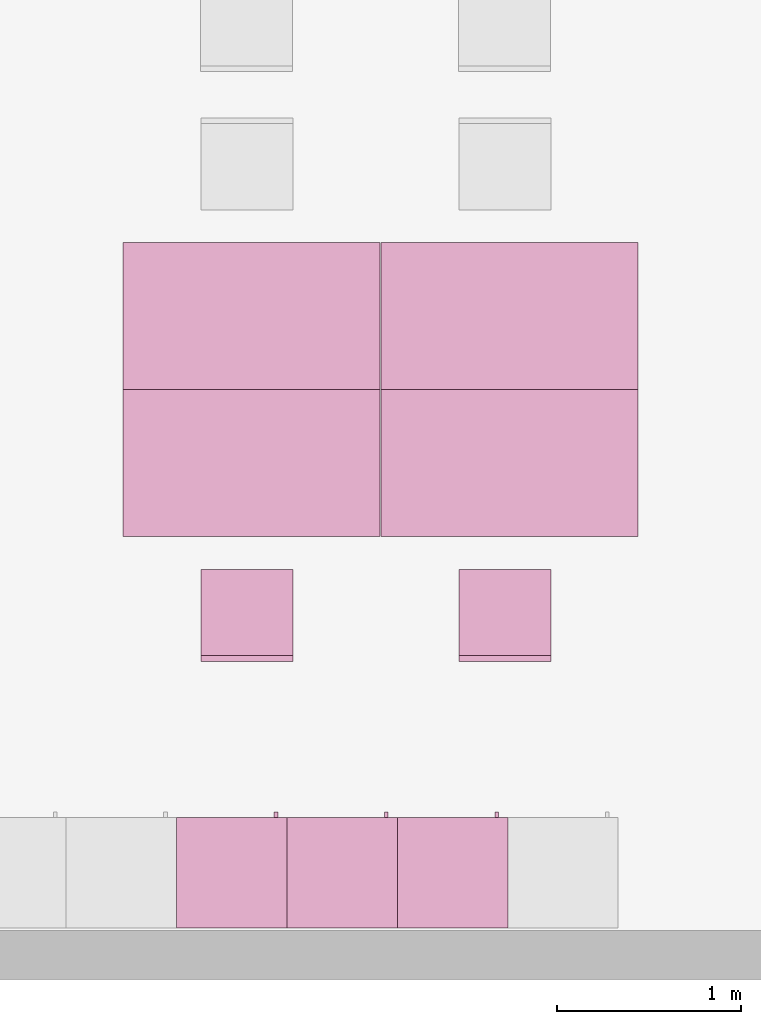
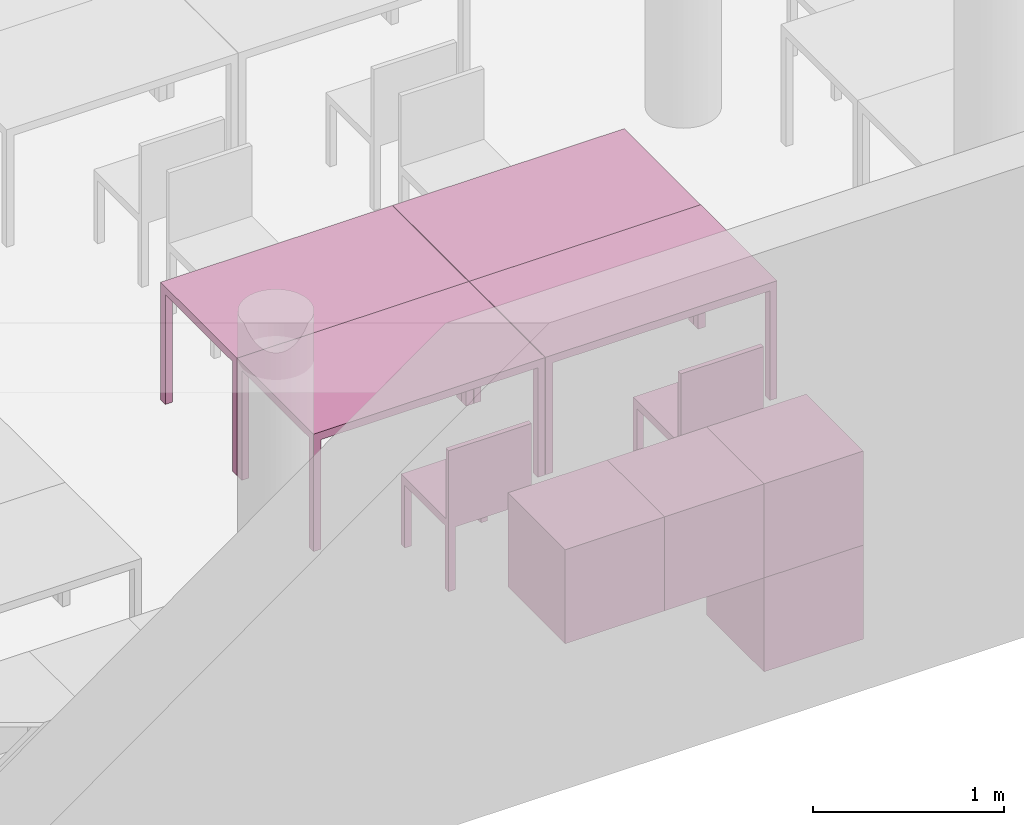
"""IFC4 building model written with IfcOpenShell, lengths in metres."""

from ifc_helpers import new_model, entity, si_unit, converted_unit, derived_unit, frame, origin, place, context, subcontext, project, spatial, faceted_brep, element, save


model = new_model("IFC4")

# Units and contexts
model_context = context("Model", 3, precision=1e-05, world=origin())
body_context = subcontext(model_context, "Body", "Model", "MODEL_VIEW")
ifc_project = project(units=[si_unit("LENGTHUNIT", "METRE"), si_unit("AREAUNIT", "SQUARE_METRE"), si_unit("VOLUMEUNIT", "CUBIC_METRE"), si_unit("MASSUNIT", "GRAM", prefix="KILO"), converted_unit("PLANEANGLEUNIT", "DEGREE", entity("IfcPlaneAngleMeasure", 0.0174532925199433), si_unit("PLANEANGLEUNIT", "RADIAN"), dimensions=[0, 0, 0, 0, 0, 0, 0]), derived_unit("THERMALTRANSMITTANCEUNIT", [(si_unit("POWERUNIT", "WATT"), 1), (si_unit("THERMODYNAMICTEMPERATUREUNIT", "KELVIN"), -1), (si_unit("LENGTHUNIT", "METRE"), -2)]), derived_unit("VOLUMETRICFLOWRATEUNIT", [(si_unit("LENGTHUNIT", "METRE"), 3), (converted_unit("TIMEUNIT", "hour", entity("IfcTimeMeasure", 3600.0), si_unit("TIMEUNIT", "SECOND"), dimensions=[0, 0, 1, 0, 0, 0, 0]), -1), (si_unit("LENGTHUNIT", "METRE"), -1)])], contexts=[model_context])

# Building, storeys
building_placement = place(None, origin())
building = spatial("IfcBuilding", under=ifc_project, at=building_placement, Name="HABITATGE PLURIFAMILIAR", CompositionType="ELEMENT")
storey_1_placement = place(building_placement, frame((0.0, 0.0, 18.29)))
storey_1 = spatial("IfcBuildingStorey", under=building, at=storey_1_placement, Name="PLANTA CINQUENA", CompositionType="ELEMENT", Elevation=18.29)
storey_2_placement = place(storey_1_placement, frame((0.0, 0.0, 15.28)))
storey_2 = spatial("IfcBuildingStorey", under=storey_1, at=storey_2_placement, Name="NOU", CompositionType="PARTIAL")

# Furniture
furniture_1_placement = place(storey_2_placement, frame((418.689089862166, 16.0495289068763, -15.28)))
element("IfcFurniture", 1, at=furniture_1_placement, inside=storey_2, Name="Taula 140X80_P5", context=body_context, shape_type="Brep", body=[
    faceted_brep([(0.04375, 0.05, 0.0), (0.0, 0.05, 0.0), (0.0, 0.0, 0.0), (0.04375, 0.0, 0.0), (0.04375, 0.0, 0.7), (0.0, 0.0, 0.7), (0.0, 0.05, 0.7), (0.04375, 0.05, 0.7)], [[[0, 1, 2, 3]], [[4, 5, 6, 7]], [[3, 4, 7, 0]], [[2, 5, 4, 3]], [[1, 6, 5, 2]], [[0, 7, 6, 1]]], orient=[[False], [False], [False], [False], [False], [False]]),
    faceted_brep([(0.04375, 0.800069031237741, 0.0), (0.0, 0.800069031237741, 0.0), (0.0, 0.750069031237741, 0.0), (0.04375, 0.750069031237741, 0.0), (0.04375, 0.750069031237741, 0.7), (0.0, 0.750069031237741, 0.7), (0.0, 0.800069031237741, 0.7), (0.04375, 0.800069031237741, 0.7)], [[[0, 1, 2, 3]], [[4, 5, 6, 7]], [[3, 4, 7, 0]], [[2, 5, 4, 3]], [[1, 6, 5, 2]], [[0, 7, 6, 1]]], orient=[[False], [False], [False], [False], [False], [False]]),
    faceted_brep([(1.39732768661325, 0.800069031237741, 0.7), (0.0, 0.800069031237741, 0.7), (0.0, 0.0, 0.7), (1.39732768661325, 0.0, 0.7), (1.39732768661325, 0.0, 0.75), (0.0, 0.0, 0.75), (0.0, 0.800069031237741, 0.75), (1.39732768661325, 0.800069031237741, 0.75)], [[[0, 1, 2, 3]], [[4, 5, 6, 7]], [[3, 4, 7, 0]], [[2, 5, 4, 3]], [[1, 6, 5, 2]], [[0, 7, 6, 1]]], orient=[[False], [False], [False], [False], [False], [False]]),
    faceted_brep([(1.39732768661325, 0.05, 0.0), (1.35357768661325, 0.05, 0.0), (1.35357768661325, 0.0, 0.0), (1.39732768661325, 0.0, 0.0), (1.39732768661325, 0.0, 0.7), (1.35357768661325, 0.0, 0.7), (1.35357768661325, 0.05, 0.7), (1.39732768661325, 0.05, 0.7)], [[[0, 1, 2, 3]], [[4, 5, 6, 7]], [[3, 4, 7, 0]], [[2, 5, 4, 3]], [[1, 6, 5, 2]], [[0, 7, 6, 1]]], orient=[[False], [False], [False], [False], [False], [False]]),
    faceted_brep([(1.39732768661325, 0.800069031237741, 0.0), (1.35357768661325, 0.800069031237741, 0.0), (1.35357768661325, 0.750069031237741, 0.0), (1.39732768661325, 0.750069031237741, 0.0), (1.39732768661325, 0.750069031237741, 0.7), (1.35357768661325, 0.750069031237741, 0.7), (1.35357768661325, 0.800069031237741, 0.7), (1.39732768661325, 0.800069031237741, 0.7)], [[[0, 1, 2, 3]], [[4, 5, 6, 7]], [[3, 4, 7, 0]], [[2, 5, 4, 3]], [[1, 6, 5, 2]], [[0, 7, 6, 1]]], orient=[[False], [False], [False], [False], [False], [False]]),
])
furniture_2_placement = place(storey_2_placement, frame((417.287910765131, 16.0495289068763, -15.28)))
element("IfcFurniture", 2, at=furniture_2_placement, inside=storey_2, Name="Taula 140X80_P5", context=body_context, shape_type="Brep", body=[
    faceted_brep([(0.04375, 0.05, 0.0), (0.0, 0.05, 0.0), (0.0, 0.0, 0.0), (0.04375, 0.0, 0.0), (0.04375, 0.0, 0.7), (0.0, 0.0, 0.7), (0.0, 0.05, 0.7), (0.04375, 0.05, 0.7)], [[[0, 1, 2, 3]], [[4, 5, 6, 7]], [[3, 4, 7, 0]], [[2, 5, 4, 3]], [[1, 6, 5, 2]], [[0, 7, 6, 1]]], orient=[[False], [False], [False], [False], [False], [False]]),
    faceted_brep([(0.04375, 0.800069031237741, 0.0), (0.0, 0.800069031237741, 0.0), (0.0, 0.750069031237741, 0.0), (0.04375, 0.750069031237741, 0.0), (0.04375, 0.750069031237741, 0.7), (0.0, 0.750069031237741, 0.7), (0.0, 0.800069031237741, 0.7), (0.04375, 0.800069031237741, 0.7)], [[[0, 1, 2, 3]], [[4, 5, 6, 7]], [[3, 4, 7, 0]], [[2, 5, 4, 3]], [[1, 6, 5, 2]], [[0, 7, 6, 1]]], orient=[[False], [False], [False], [False], [False], [False]]),
    faceted_brep([(1.39732768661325, 0.800069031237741, 0.7), (0.0, 0.800069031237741, 0.7), (0.0, 0.0, 0.7), (1.39732768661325, 0.0, 0.7), (1.39732768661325, 0.0, 0.75), (0.0, 0.0, 0.75), (0.0, 0.800069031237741, 0.75), (1.39732768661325, 0.800069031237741, 0.75)], [[[0, 1, 2, 3]], [[4, 5, 6, 7]], [[3, 4, 7, 0]], [[2, 5, 4, 3]], [[1, 6, 5, 2]], [[0, 7, 6, 1]]], orient=[[False], [False], [False], [False], [False], [False]]),
    faceted_brep([(1.39732768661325, 0.05, 0.0), (1.35357768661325, 0.05, 0.0), (1.35357768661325, 0.0, 0.0), (1.39732768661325, 0.0, 0.0), (1.39732768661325, 0.0, 0.7), (1.35357768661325, 0.0, 0.7), (1.35357768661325, 0.05, 0.7), (1.39732768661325, 0.05, 0.7)], [[[0, 1, 2, 3]], [[4, 5, 6, 7]], [[3, 4, 7, 0]], [[2, 5, 4, 3]], [[1, 6, 5, 2]], [[0, 7, 6, 1]]], orient=[[False], [False], [False], [False], [False], [False]]),
    faceted_brep([(1.39732768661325, 0.800069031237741, 0.0), (1.35357768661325, 0.800069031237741, 0.0), (1.35357768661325, 0.750069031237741, 0.0), (1.39732768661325, 0.750069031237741, 0.0), (1.39732768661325, 0.750069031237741, 0.7), (1.35357768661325, 0.750069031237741, 0.7), (1.35357768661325, 0.800069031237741, 0.7), (1.39732768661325, 0.800069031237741, 0.7)], [[[0, 1, 2, 3]], [[4, 5, 6, 7]], [[3, 4, 7, 0]], [[2, 5, 4, 3]], [[1, 6, 5, 2]], [[0, 7, 6, 1]]], orient=[[False], [False], [False], [False], [False], [False]]),
])
furniture_3_placement = place(storey_2_placement, frame((418.689089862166, 15.2494598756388, -15.28)))
element("IfcFurniture", 3, at=furniture_3_placement, inside=storey_2, Name="Taula 140X80_P5", context=body_context, shape_type="Brep", body=[
    faceted_brep([(0.04375, 0.750069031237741, 0.0), (0.04375, 0.800069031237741, 0.0), (0.0, 0.800069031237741, 0.0), (0.0, 0.750069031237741, 0.0), (0.04375, 0.800069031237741, 0.7), (0.04375, 0.750069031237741, 0.7), (0.0, 0.750069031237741, 0.7), (0.0, 0.800069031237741, 0.7)], [[[0, 1, 2, 3]], [[4, 5, 6, 7]], [[1, 0, 5, 4]], [[2, 1, 4, 7]], [[3, 2, 7, 6]], [[0, 3, 6, 5]]], orient=[[False], [False], [False], [False], [False], [False]]),
    faceted_brep([(0.04375, 0.0, 0.0), (0.04375, 0.05, 0.0), (0.0, 0.05, 0.0), (0.0, 0.0, 0.0), (0.04375, 0.05, 0.7), (0.04375, 0.0, 0.7), (0.0, 0.0, 0.7), (0.0, 0.05, 0.7)], [[[0, 1, 2, 3]], [[4, 5, 6, 7]], [[1, 0, 5, 4]], [[2, 1, 4, 7]], [[3, 2, 7, 6]], [[0, 3, 6, 5]]], orient=[[False], [False], [False], [False], [False], [False]]),
    faceted_brep([(1.39732768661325, 0.0, 0.7), (1.39732768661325, 0.800069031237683, 0.7), (0.0, 0.800069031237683, 0.7), (0.0, 0.0, 0.7), (1.39732768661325, 0.800069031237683, 0.75), (1.39732768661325, 0.0, 0.75), (0.0, 0.0, 0.75), (0.0, 0.800069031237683, 0.75)], [[[0, 1, 2, 3]], [[4, 5, 6, 7]], [[1, 0, 5, 4]], [[2, 1, 4, 7]], [[3, 2, 7, 6]], [[0, 3, 6, 5]]], orient=[[False], [False], [False], [False], [False], [False]]),
    faceted_brep([(1.39732768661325, 0.750069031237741, 0.0), (1.39732768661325, 0.800069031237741, 0.0), (1.35357768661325, 0.800069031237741, 0.0), (1.35357768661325, 0.750069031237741, 0.0), (1.39732768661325, 0.800069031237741, 0.7), (1.39732768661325, 0.750069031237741, 0.7), (1.35357768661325, 0.750069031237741, 0.7), (1.35357768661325, 0.800069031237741, 0.7)], [[[0, 1, 2, 3]], [[4, 5, 6, 7]], [[1, 0, 5, 4]], [[2, 1, 4, 7]], [[3, 2, 7, 6]], [[0, 3, 6, 5]]], orient=[[False], [False], [False], [False], [False], [False]]),
    faceted_brep([(1.39732768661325, 0.0, 0.0), (1.39732768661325, 0.05, 0.0), (1.35357768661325, 0.05, 0.0), (1.35357768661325, 0.0, 0.0), (1.39732768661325, 0.05, 0.7), (1.39732768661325, 0.0, 0.7), (1.35357768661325, 0.0, 0.7), (1.35357768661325, 0.05, 0.7)], [[[0, 1, 2, 3]], [[4, 5, 6, 7]], [[1, 0, 5, 4]], [[2, 1, 4, 7]], [[3, 2, 7, 6]], [[0, 3, 6, 5]]], orient=[[False], [False], [False], [False], [False], [False]]),
])
furniture_4_placement = place(storey_2_placement, frame((417.287910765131, 15.2494598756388, -15.28)))
element("IfcFurniture", 4, at=furniture_4_placement, inside=storey_2, Name="Taula 140X80_P5", context=body_context, shape_type="Brep", body=[
    faceted_brep([(0.04375, 0.750069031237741, 0.0), (0.04375, 0.800069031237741, 0.0), (0.0, 0.800069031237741, 0.0), (0.0, 0.750069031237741, 0.0), (0.04375, 0.800069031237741, 0.7), (0.04375, 0.750069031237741, 0.7), (0.0, 0.750069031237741, 0.7), (0.0, 0.800069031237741, 0.7)], [[[0, 1, 2, 3]], [[4, 5, 6, 7]], [[1, 0, 5, 4]], [[2, 1, 4, 7]], [[3, 2, 7, 6]], [[0, 3, 6, 5]]], orient=[[False], [False], [False], [False], [False], [False]]),
    faceted_brep([(0.04375, 0.0, 0.0), (0.04375, 0.05, 0.0), (0.0, 0.05, 0.0), (0.0, 0.0, 0.0), (0.04375, 0.05, 0.7), (0.04375, 0.0, 0.7), (0.0, 0.0, 0.7), (0.0, 0.05, 0.7)], [[[0, 1, 2, 3]], [[4, 5, 6, 7]], [[1, 0, 5, 4]], [[2, 1, 4, 7]], [[3, 2, 7, 6]], [[0, 3, 6, 5]]], orient=[[False], [False], [False], [False], [False], [False]]),
    faceted_brep([(1.39732768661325, 0.0, 0.7), (1.39732768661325, 0.800069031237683, 0.7), (0.0, 0.800069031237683, 0.7), (0.0, 0.0, 0.7), (1.39732768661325, 0.800069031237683, 0.75), (1.39732768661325, 0.0, 0.75), (0.0, 0.0, 0.75), (0.0, 0.800069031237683, 0.75)], [[[0, 1, 2, 3]], [[4, 5, 6, 7]], [[1, 0, 5, 4]], [[2, 1, 4, 7]], [[3, 2, 7, 6]], [[0, 3, 6, 5]]], orient=[[False], [False], [False], [False], [False], [False]]),
    faceted_brep([(1.39732768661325, 0.750069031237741, 0.0), (1.39732768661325, 0.800069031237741, 0.0), (1.35357768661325, 0.800069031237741, 0.0), (1.35357768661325, 0.750069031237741, 0.0), (1.39732768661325, 0.800069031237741, 0.7), (1.39732768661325, 0.750069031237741, 0.7), (1.35357768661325, 0.750069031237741, 0.7), (1.35357768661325, 0.800069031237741, 0.7)], [[[0, 1, 2, 3]], [[4, 5, 6, 7]], [[1, 0, 5, 4]], [[2, 1, 4, 7]], [[3, 2, 7, 6]], [[0, 3, 6, 5]]], orient=[[False], [False], [False], [False], [False], [False]]),
    faceted_brep([(1.39732768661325, 0.0, 0.0), (1.39732768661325, 0.05, 0.0), (1.35357768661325, 0.05, 0.0), (1.35357768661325, 0.0, 0.0), (1.39732768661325, 0.05, 0.7), (1.39732768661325, 0.0, 0.7), (1.35357768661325, 0.0, 0.7), (1.35357768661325, 0.05, 0.7)], [[[0, 1, 2, 3]], [[4, 5, 6, 7]], [[1, 0, 5, 4]], [[2, 1, 4, 7]], [[3, 2, 7, 6]], [[0, 3, 6, 5]]], orient=[[False], [False], [False], [False], [False], [False]]),
])
furniture_5_placement = place(storey_2_placement, frame((418.779266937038, 13.1230771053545, -15.2800000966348)))
element("IfcFurniture", 5, at=furniture_5_placement, inside=storey_2, Name="Armai 60x60x60_P5", context=body_context, shape_type="Brep", body=[
    faceted_brep([(0.600000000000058, 0.6, 0.02), (0.0, 0.6, 0.02), (0.0, 0.6, 0.0), (0.600000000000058, 0.6, 0.0), (0.0, 0.0, 0.02), (0.0, 0.0, 0.0), (0.600000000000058, 0.0, 0.02), (0.600000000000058, 0.0, 0.0)], [[[0, 1, 2, 3]], [[1, 4, 5, 2]], [[4, 6, 7, 5]], [[6, 0, 3, 7]], [[0, 6, 4, 1]], [[3, 2, 5, 7]]], orient=[[False], [False], [False], [False], [False], [False]]),
    faceted_brep([(0.02, 0.0, 0.58), (0.02, 0.0, 0.02), (0.02, 0.0200000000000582, 0.02), (0.02, 0.0200000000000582, 0.58), (0.58, 0.0, 0.02), (0.58, 0.0200000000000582, 0.02), (0.58, 0.0, 0.58), (0.58, 0.0200000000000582, 0.58)], [[[0, 1, 2, 3]], [[1, 4, 5, 2]], [[4, 6, 7, 5]], [[6, 0, 3, 7]], [[0, 6, 4, 1]], [[3, 2, 5, 7]]], orient=[[False], [False], [False], [False], [False], [False]]),
    faceted_brep([(0.58, 0.6, 0.58), (0.58, 0.6, 0.02), (0.6, 0.6, 0.02), (0.6, 0.6, 0.58), (0.58, 0.0, 0.02), (0.6, 0.0, 0.02), (0.58, 0.0, 0.58), (0.6, 0.0, 0.58)], [[[0, 1, 2, 3]], [[1, 4, 5, 2]], [[4, 6, 7, 5]], [[6, 0, 3, 7]], [[0, 6, 4, 1]], [[3, 2, 5, 7]]], orient=[[False], [False], [False], [False], [False], [False]]),
    faceted_brep([(0.600000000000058, 0.58, 0.58), (0.600000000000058, 0.58, 0.02), (0.600000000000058, 0.6, 0.02), (0.600000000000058, 0.6, 0.58), (0.580000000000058, 0.58, 0.02), (0.580000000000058, 0.6, 0.02), (0.580000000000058, 0.58, 0.58), (0.580000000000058, 0.6, 0.58)], [[[0, 1, 2, 3]], [[1, 4, 5, 2]], [[4, 6, 7, 5]], [[6, 0, 3, 7]], [[0, 6, 4, 1]], [[3, 2, 5, 7]]], orient=[[False], [False], [False], [False], [False], [False]]),
    faceted_brep([(0.0, 0.6, 0.58), (0.0, 0.6, 0.02), (0.0200000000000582, 0.6, 0.02), (0.0200000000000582, 0.6, 0.58), (0.0, 0.0, 0.02), (0.0200000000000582, 0.0, 0.02), (0.0, 0.0, 0.58), (0.0200000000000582, 0.0, 0.58)], [[[0, 1, 2, 3]], [[1, 4, 5, 2]], [[4, 6, 7, 5]], [[6, 0, 3, 7]], [[0, 6, 4, 1]], [[3, 2, 5, 7]]], orient=[[False], [False], [False], [False], [False], [False]]),
    faceted_brep([(0.6, 0.600000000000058, 0.6), (0.0, 0.600000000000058, 0.6), (0.0, 0.600000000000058, 0.58), (0.6, 0.600000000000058, 0.58), (0.0, 0.0, 0.6), (0.0, 0.0, 0.58), (0.6, 0.0, 0.6), (0.6, 0.0, 0.58)], [[[0, 1, 2, 3]], [[1, 4, 5, 2]], [[4, 6, 7, 5]], [[6, 0, 3, 7]], [[0, 6, 4, 1]], [[3, 2, 5, 7]]], orient=[[False], [False], [False], [False], [False], [False]]),
    faceted_brep([(0.02, 0.580000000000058, 0.58), (0.02, 0.580000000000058, 0.02), (0.02, 0.600000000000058, 0.02), (0.02, 0.600000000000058, 0.58), (0.580000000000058, 0.580000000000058, 0.02), (0.580000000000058, 0.600000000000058, 0.02), (0.580000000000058, 0.580000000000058, 0.58), (0.580000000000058, 0.600000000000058, 0.58)], [[[0, 1, 2, 3]], [[1, 4, 5, 2]], [[4, 6, 7, 5]], [[6, 0, 3, 7]], [[0, 6, 4, 1]], [[3, 2, 5, 7]]], orient=[[False], [False], [False], [False], [False], [False]]),
    faceted_brep([(0.53, 0.600000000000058, 0.358064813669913), (0.53, 0.600000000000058, 0.258064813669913), (0.53, 0.630000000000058, 0.258064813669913), (0.53, 0.630000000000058, 0.358064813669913), (0.55, 0.600000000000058, 0.258064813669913), (0.55, 0.630000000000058, 0.258064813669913), (0.55, 0.600000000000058, 0.358064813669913), (0.55, 0.630000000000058, 0.358064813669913)], [[[0, 1, 2, 3]], [[1, 4, 5, 2]], [[4, 6, 7, 5]], [[6, 0, 3, 7]], [[0, 6, 4, 1]], [[3, 2, 5, 7]]], orient=[[False], [False], [False], [False], [False], [False]]),
])
furniture_6_placement = place(storey_2_placement, frame((417.579266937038, 13.1230771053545, -14.6800000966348)))
element("IfcFurniture", 6, at=furniture_6_placement, inside=storey_2, Name="Armai 60x60x60_P5", context=body_context, shape_type="Brep", body=[
    faceted_brep([(0.600000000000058, 0.6, 0.02), (0.0, 0.6, 0.02), (0.0, 0.6, 0.0), (0.600000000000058, 0.6, 0.0), (0.0, 0.0, 0.02), (0.0, 0.0, 0.0), (0.600000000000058, 0.0, 0.02), (0.600000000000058, 0.0, 0.0)], [[[0, 1, 2, 3]], [[1, 4, 5, 2]], [[4, 6, 7, 5]], [[6, 0, 3, 7]], [[0, 6, 4, 1]], [[3, 2, 5, 7]]], orient=[[False], [False], [False], [False], [False], [False]]),
    faceted_brep([(0.02, 0.0, 0.58), (0.02, 0.0, 0.02), (0.02, 0.0200000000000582, 0.02), (0.02, 0.0200000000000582, 0.58), (0.58, 0.0, 0.02), (0.58, 0.0200000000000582, 0.02), (0.58, 0.0, 0.58), (0.58, 0.0200000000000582, 0.58)], [[[0, 1, 2, 3]], [[1, 4, 5, 2]], [[4, 6, 7, 5]], [[6, 0, 3, 7]], [[0, 6, 4, 1]], [[3, 2, 5, 7]]], orient=[[False], [False], [False], [False], [False], [False]]),
    faceted_brep([(0.58, 0.6, 0.58), (0.58, 0.6, 0.02), (0.6, 0.6, 0.02), (0.6, 0.6, 0.58), (0.58, 0.0, 0.02), (0.6, 0.0, 0.02), (0.58, 0.0, 0.58), (0.6, 0.0, 0.58)], [[[0, 1, 2, 3]], [[1, 4, 5, 2]], [[4, 6, 7, 5]], [[6, 0, 3, 7]], [[0, 6, 4, 1]], [[3, 2, 5, 7]]], orient=[[False], [False], [False], [False], [False], [False]]),
    faceted_brep([(0.600000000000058, 0.58, 0.58), (0.600000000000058, 0.58, 0.02), (0.600000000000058, 0.6, 0.02), (0.600000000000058, 0.6, 0.58), (0.580000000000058, 0.58, 0.02), (0.580000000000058, 0.6, 0.02), (0.580000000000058, 0.58, 0.58), (0.580000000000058, 0.6, 0.58)], [[[0, 1, 2, 3]], [[1, 4, 5, 2]], [[4, 6, 7, 5]], [[6, 0, 3, 7]], [[0, 6, 4, 1]], [[3, 2, 5, 7]]], orient=[[False], [False], [False], [False], [False], [False]]),
    faceted_brep([(0.0, 0.6, 0.58), (0.0, 0.6, 0.02), (0.0200000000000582, 0.6, 0.02), (0.0200000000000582, 0.6, 0.58), (0.0, 0.0, 0.02), (0.0200000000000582, 0.0, 0.02), (0.0, 0.0, 0.58), (0.0200000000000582, 0.0, 0.58)], [[[0, 1, 2, 3]], [[1, 4, 5, 2]], [[4, 6, 7, 5]], [[6, 0, 3, 7]], [[0, 6, 4, 1]], [[3, 2, 5, 7]]], orient=[[False], [False], [False], [False], [False], [False]]),
    faceted_brep([(0.6, 0.600000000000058, 0.6), (0.0, 0.600000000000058, 0.6), (0.0, 0.600000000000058, 0.58), (0.6, 0.600000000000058, 0.58), (0.0, 0.0, 0.6), (0.0, 0.0, 0.58), (0.6, 0.0, 0.6), (0.6, 0.0, 0.58)], [[[0, 1, 2, 3]], [[1, 4, 5, 2]], [[4, 6, 7, 5]], [[6, 0, 3, 7]], [[0, 6, 4, 1]], [[3, 2, 5, 7]]], orient=[[False], [False], [False], [False], [False], [False]]),
    faceted_brep([(0.02, 0.580000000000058, 0.58), (0.02, 0.580000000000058, 0.02), (0.02, 0.600000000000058, 0.02), (0.02, 0.600000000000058, 0.58), (0.580000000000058, 0.580000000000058, 0.02), (0.580000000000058, 0.600000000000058, 0.02), (0.580000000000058, 0.580000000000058, 0.58), (0.580000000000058, 0.600000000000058, 0.58)], [[[0, 1, 2, 3]], [[1, 4, 5, 2]], [[4, 6, 7, 5]], [[6, 0, 3, 7]], [[0, 6, 4, 1]], [[3, 2, 5, 7]]], orient=[[False], [False], [False], [False], [False], [False]]),
    faceted_brep([(0.53, 0.600000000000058, 0.358064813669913), (0.53, 0.600000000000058, 0.258064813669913), (0.53, 0.630000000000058, 0.258064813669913), (0.53, 0.630000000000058, 0.358064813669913), (0.55, 0.600000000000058, 0.258064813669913), (0.55, 0.630000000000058, 0.258064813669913), (0.55, 0.600000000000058, 0.358064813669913), (0.55, 0.630000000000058, 0.358064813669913)], [[[0, 1, 2, 3]], [[1, 4, 5, 2]], [[4, 6, 7, 5]], [[6, 0, 3, 7]], [[0, 6, 4, 1]], [[3, 2, 5, 7]]], orient=[[False], [False], [False], [False], [False], [False]]),
])
furniture_7_placement = place(storey_2_placement, frame((418.779266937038, 13.1230771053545, -14.6800000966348)))
element("IfcFurniture", 7, at=furniture_7_placement, inside=storey_2, Name="Armai 60x60x60_P5", context=body_context, shape_type="Brep", body=[
    faceted_brep([(0.600000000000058, 0.6, 0.02), (0.0, 0.6, 0.02), (0.0, 0.6, 0.0), (0.600000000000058, 0.6, 0.0), (0.0, 0.0, 0.02), (0.0, 0.0, 0.0), (0.600000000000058, 0.0, 0.02), (0.600000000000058, 0.0, 0.0)], [[[0, 1, 2, 3]], [[1, 4, 5, 2]], [[4, 6, 7, 5]], [[6, 0, 3, 7]], [[0, 6, 4, 1]], [[3, 2, 5, 7]]], orient=[[False], [False], [False], [False], [False], [False]]),
    faceted_brep([(0.02, 0.0, 0.58), (0.02, 0.0, 0.02), (0.02, 0.0200000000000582, 0.02), (0.02, 0.0200000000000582, 0.58), (0.58, 0.0, 0.02), (0.58, 0.0200000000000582, 0.02), (0.58, 0.0, 0.58), (0.58, 0.0200000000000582, 0.58)], [[[0, 1, 2, 3]], [[1, 4, 5, 2]], [[4, 6, 7, 5]], [[6, 0, 3, 7]], [[0, 6, 4, 1]], [[3, 2, 5, 7]]], orient=[[False], [False], [False], [False], [False], [False]]),
    faceted_brep([(0.58, 0.6, 0.58), (0.58, 0.6, 0.02), (0.6, 0.6, 0.02), (0.6, 0.6, 0.58), (0.58, 0.0, 0.02), (0.6, 0.0, 0.02), (0.58, 0.0, 0.58), (0.6, 0.0, 0.58)], [[[0, 1, 2, 3]], [[1, 4, 5, 2]], [[4, 6, 7, 5]], [[6, 0, 3, 7]], [[0, 6, 4, 1]], [[3, 2, 5, 7]]], orient=[[False], [False], [False], [False], [False], [False]]),
    faceted_brep([(0.600000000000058, 0.58, 0.58), (0.600000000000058, 0.58, 0.02), (0.600000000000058, 0.6, 0.02), (0.600000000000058, 0.6, 0.58), (0.580000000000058, 0.58, 0.02), (0.580000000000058, 0.6, 0.02), (0.580000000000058, 0.58, 0.58), (0.580000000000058, 0.6, 0.58)], [[[0, 1, 2, 3]], [[1, 4, 5, 2]], [[4, 6, 7, 5]], [[6, 0, 3, 7]], [[0, 6, 4, 1]], [[3, 2, 5, 7]]], orient=[[False], [False], [False], [False], [False], [False]]),
    faceted_brep([(0.0, 0.6, 0.58), (0.0, 0.6, 0.02), (0.0200000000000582, 0.6, 0.02), (0.0200000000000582, 0.6, 0.58), (0.0, 0.0, 0.02), (0.0200000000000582, 0.0, 0.02), (0.0, 0.0, 0.58), (0.0200000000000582, 0.0, 0.58)], [[[0, 1, 2, 3]], [[1, 4, 5, 2]], [[4, 6, 7, 5]], [[6, 0, 3, 7]], [[0, 6, 4, 1]], [[3, 2, 5, 7]]], orient=[[False], [False], [False], [False], [False], [False]]),
    faceted_brep([(0.6, 0.600000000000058, 0.6), (0.0, 0.600000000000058, 0.6), (0.0, 0.600000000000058, 0.58), (0.6, 0.600000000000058, 0.58), (0.0, 0.0, 0.6), (0.0, 0.0, 0.58), (0.6, 0.0, 0.6), (0.6, 0.0, 0.58)], [[[0, 1, 2, 3]], [[1, 4, 5, 2]], [[4, 6, 7, 5]], [[6, 0, 3, 7]], [[0, 6, 4, 1]], [[3, 2, 5, 7]]], orient=[[False], [False], [False], [False], [False], [False]]),
    faceted_brep([(0.02, 0.580000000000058, 0.58), (0.02, 0.580000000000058, 0.02), (0.02, 0.600000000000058, 0.02), (0.02, 0.600000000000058, 0.58), (0.580000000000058, 0.580000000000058, 0.02), (0.580000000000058, 0.600000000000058, 0.02), (0.580000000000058, 0.580000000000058, 0.58), (0.580000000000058, 0.600000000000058, 0.58)], [[[0, 1, 2, 3]], [[1, 4, 5, 2]], [[4, 6, 7, 5]], [[6, 0, 3, 7]], [[0, 6, 4, 1]], [[3, 2, 5, 7]]], orient=[[False], [False], [False], [False], [False], [False]]),
    faceted_brep([(0.53, 0.600000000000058, 0.358064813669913), (0.53, 0.600000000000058, 0.258064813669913), (0.53, 0.630000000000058, 0.258064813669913), (0.53, 0.630000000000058, 0.358064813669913), (0.55, 0.600000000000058, 0.258064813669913), (0.55, 0.630000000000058, 0.258064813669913), (0.55, 0.600000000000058, 0.358064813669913), (0.55, 0.630000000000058, 0.358064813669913)], [[[0, 1, 2, 3]], [[1, 4, 5, 2]], [[4, 6, 7, 5]], [[6, 0, 3, 7]], [[0, 6, 4, 1]], [[3, 2, 5, 7]]], orient=[[False], [False], [False], [False], [False], [False]]),
])
furniture_8_placement = place(storey_2_placement, frame((418.179266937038, 13.1230771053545, -14.6800000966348)))
element("IfcFurniture", 8, at=furniture_8_placement, inside=storey_2, Name="Armai 60x60x60_P5", context=body_context, shape_type="Brep", body=[
    faceted_brep([(0.600000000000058, 0.6, 0.02), (0.0, 0.6, 0.02), (0.0, 0.6, 0.0), (0.600000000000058, 0.6, 0.0), (0.0, 0.0, 0.02), (0.0, 0.0, 0.0), (0.600000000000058, 0.0, 0.02), (0.600000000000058, 0.0, 0.0)], [[[0, 1, 2, 3]], [[1, 4, 5, 2]], [[4, 6, 7, 5]], [[6, 0, 3, 7]], [[0, 6, 4, 1]], [[3, 2, 5, 7]]], orient=[[False], [False], [False], [False], [False], [False]]),
    faceted_brep([(0.02, 0.0, 0.58), (0.02, 0.0, 0.02), (0.02, 0.0200000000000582, 0.02), (0.02, 0.0200000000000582, 0.58), (0.58, 0.0, 0.02), (0.58, 0.0200000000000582, 0.02), (0.58, 0.0, 0.58), (0.58, 0.0200000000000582, 0.58)], [[[0, 1, 2, 3]], [[1, 4, 5, 2]], [[4, 6, 7, 5]], [[6, 0, 3, 7]], [[0, 6, 4, 1]], [[3, 2, 5, 7]]], orient=[[False], [False], [False], [False], [False], [False]]),
    faceted_brep([(0.58, 0.6, 0.58), (0.58, 0.6, 0.02), (0.6, 0.6, 0.02), (0.6, 0.6, 0.58), (0.58, 0.0, 0.02), (0.6, 0.0, 0.02), (0.58, 0.0, 0.58), (0.6, 0.0, 0.58)], [[[0, 1, 2, 3]], [[1, 4, 5, 2]], [[4, 6, 7, 5]], [[6, 0, 3, 7]], [[0, 6, 4, 1]], [[3, 2, 5, 7]]], orient=[[False], [False], [False], [False], [False], [False]]),
    faceted_brep([(0.600000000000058, 0.58, 0.58), (0.600000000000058, 0.58, 0.02), (0.600000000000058, 0.6, 0.02), (0.600000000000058, 0.6, 0.58), (0.580000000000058, 0.58, 0.02), (0.580000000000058, 0.6, 0.02), (0.580000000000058, 0.58, 0.58), (0.580000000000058, 0.6, 0.58)], [[[0, 1, 2, 3]], [[1, 4, 5, 2]], [[4, 6, 7, 5]], [[6, 0, 3, 7]], [[0, 6, 4, 1]], [[3, 2, 5, 7]]], orient=[[False], [False], [False], [False], [False], [False]]),
    faceted_brep([(0.0, 0.6, 0.58), (0.0, 0.6, 0.02), (0.0200000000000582, 0.6, 0.02), (0.0200000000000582, 0.6, 0.58), (0.0, 0.0, 0.02), (0.0200000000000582, 0.0, 0.02), (0.0, 0.0, 0.58), (0.0200000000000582, 0.0, 0.58)], [[[0, 1, 2, 3]], [[1, 4, 5, 2]], [[4, 6, 7, 5]], [[6, 0, 3, 7]], [[0, 6, 4, 1]], [[3, 2, 5, 7]]], orient=[[False], [False], [False], [False], [False], [False]]),
    faceted_brep([(0.6, 0.600000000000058, 0.6), (0.0, 0.600000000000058, 0.6), (0.0, 0.600000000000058, 0.58), (0.6, 0.600000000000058, 0.58), (0.0, 0.0, 0.6), (0.0, 0.0, 0.58), (0.6, 0.0, 0.6), (0.6, 0.0, 0.58)], [[[0, 1, 2, 3]], [[1, 4, 5, 2]], [[4, 6, 7, 5]], [[6, 0, 3, 7]], [[0, 6, 4, 1]], [[3, 2, 5, 7]]], orient=[[False], [False], [False], [False], [False], [False]]),
    faceted_brep([(0.02, 0.580000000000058, 0.58), (0.02, 0.580000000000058, 0.02), (0.02, 0.600000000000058, 0.02), (0.02, 0.600000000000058, 0.58), (0.580000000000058, 0.580000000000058, 0.02), (0.580000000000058, 0.600000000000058, 0.02), (0.580000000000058, 0.580000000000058, 0.58), (0.580000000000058, 0.600000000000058, 0.58)], [[[0, 1, 2, 3]], [[1, 4, 5, 2]], [[4, 6, 7, 5]], [[6, 0, 3, 7]], [[0, 6, 4, 1]], [[3, 2, 5, 7]]], orient=[[False], [False], [False], [False], [False], [False]]),
    faceted_brep([(0.53, 0.600000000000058, 0.358064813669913), (0.53, 0.600000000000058, 0.258064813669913), (0.53, 0.630000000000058, 0.258064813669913), (0.53, 0.630000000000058, 0.358064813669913), (0.55, 0.600000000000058, 0.258064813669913), (0.55, 0.630000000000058, 0.258064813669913), (0.55, 0.600000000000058, 0.358064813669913), (0.55, 0.630000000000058, 0.358064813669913)], [[[0, 1, 2, 3]], [[1, 4, 5, 2]], [[4, 6, 7, 5]], [[6, 0, 3, 7]], [[0, 6, 4, 1]], [[3, 2, 5, 7]]], orient=[[False], [False], [False], [False], [False], [False]]),
])
furniture_9_placement = place(storey_2_placement, frame((417.712940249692, 14.572774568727, -15.2746385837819)))
element("IfcFurniture", 9, at=furniture_9_placement, inside=storey_2, Name="Cadira d'Oficina_P5", context=body_context, shape_type="Brep", body=[
    faceted_brep([(0.0, 0.500000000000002, 0.4), (0.0, 0.0, 0.4), (0.5, 0.0, 0.4), (0.5, 0.499999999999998, 0.4), (0.0, 0.0, 0.45), (0.0, 0.500000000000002, 0.45), (0.5, 0.499999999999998, 0.45), (0.5, 0.0, 0.45)], [[[0, 1, 2, 3]], [[4, 5, 6, 7]], [[1, 0, 5, 4]], [[2, 1, 4, 7]], [[3, 2, 7, 6]], [[0, 3, 6, 5]]], orient=[[False], [False], [False], [False], [False], [False]]),
    faceted_brep([(0.5, 0.04, 0.0), (0.46, 0.04, 0.0), (0.46, 0.0, 0.0), (0.5, 0.0, 0.0), (0.46, 0.04, 0.4), (0.5, 0.04, 0.4), (0.5, 0.0, 0.4), (0.46, 0.0, 0.4)], [[[0, 1, 2, 3]], [[4, 5, 6, 7]], [[1, 0, 5, 4]], [[2, 1, 4, 7]], [[3, 2, 7, 6]], [[0, 3, 6, 5]]], orient=[[False], [False], [False], [False], [False], [False]]),
    faceted_brep([(0.5, 0.499999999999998, 0.0), (0.46, 0.5, 0.0), (0.46, 0.46, 0.0), (0.5, 0.459999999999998, 0.0), (0.46, 0.5, 0.4), (0.5, 0.499999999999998, 0.4), (0.5, 0.459999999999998, 0.4), (0.46, 0.46, 0.4)], [[[0, 1, 2, 3]], [[4, 5, 6, 7]], [[1, 0, 5, 4]], [[2, 1, 4, 7]], [[3, 2, 7, 6]], [[0, 3, 6, 5]]], orient=[[False], [False], [False], [False], [False], [False]]),
    faceted_brep([(0.04, 0.04, 0.0), (0.0, 0.0400000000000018, 0.0), (0.0, 0.0, 0.0), (0.04, 0.0, 0.0), (0.0, 0.0400000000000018, 0.4), (0.04, 0.04, 0.4), (0.04, 0.0, 0.4), (0.0, 0.0, 0.4)], [[[0, 1, 2, 3]], [[4, 5, 6, 7]], [[1, 0, 5, 4]], [[2, 1, 4, 7]], [[3, 2, 7, 6]], [[0, 3, 6, 5]]], orient=[[False], [False], [False], [False], [False], [False]]),
    faceted_brep([(0.04, 0.5, 0.0), (0.0, 0.500000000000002, 0.0), (0.0, 0.460000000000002, 0.0), (0.04, 0.46, 0.0), (0.0, 0.500000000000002, 0.4), (0.04, 0.5, 0.4), (0.04, 0.46, 0.4), (0.0, 0.460000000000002, 0.4)], [[[0, 1, 2, 3]], [[4, 5, 6, 7]], [[1, 0, 5, 4]], [[2, 1, 4, 7]], [[3, 2, 7, 6]], [[0, 3, 6, 5]]], orient=[[False], [False], [False], [False], [False], [False]]),
    faceted_brep([(0.5, 0.03, 0.45), (0.0, 0.0300000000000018, 0.45), (0.0, 0.0, 0.45), (0.5, 0.0, 0.45), (0.0, 0.0300000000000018, 0.9), (0.5, 0.03, 0.9), (0.5, 0.0, 0.9), (0.0, 0.0, 0.9)], [[[0, 1, 2, 3]], [[4, 5, 6, 7]], [[1, 0, 5, 4]], [[2, 1, 4, 7]], [[3, 2, 7, 6]], [[0, 3, 6, 5]]], orient=[[False], [False], [False], [False], [False], [False]]),
])
furniture_10_placement = place(storey_2_placement, frame((419.114119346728, 14.5727745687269, -15.2746385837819)))
element("IfcFurniture", 10, at=furniture_10_placement, inside=storey_2, Name="Cadira d'Oficina_P5", context=body_context, shape_type="Brep", body=[
    faceted_brep([(0.0, 0.500000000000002, 0.4), (0.0, 0.0, 0.4), (0.5, 0.0, 0.4), (0.5, 0.499999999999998, 0.4), (0.0, 0.0, 0.45), (0.0, 0.500000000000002, 0.45), (0.5, 0.499999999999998, 0.45), (0.5, 0.0, 0.45)], [[[0, 1, 2, 3]], [[4, 5, 6, 7]], [[1, 0, 5, 4]], [[2, 1, 4, 7]], [[3, 2, 7, 6]], [[0, 3, 6, 5]]], orient=[[False], [False], [False], [False], [False], [False]]),
    faceted_brep([(0.5, 0.04, 0.0), (0.46, 0.04, 0.0), (0.46, 0.0, 0.0), (0.5, 0.0, 0.0), (0.46, 0.04, 0.4), (0.5, 0.04, 0.4), (0.5, 0.0, 0.4), (0.46, 0.0, 0.4)], [[[0, 1, 2, 3]], [[4, 5, 6, 7]], [[1, 0, 5, 4]], [[2, 1, 4, 7]], [[3, 2, 7, 6]], [[0, 3, 6, 5]]], orient=[[False], [False], [False], [False], [False], [False]]),
    faceted_brep([(0.5, 0.499999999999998, 0.0), (0.46, 0.5, 0.0), (0.46, 0.46, 0.0), (0.5, 0.459999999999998, 0.0), (0.46, 0.5, 0.4), (0.5, 0.499999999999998, 0.4), (0.5, 0.459999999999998, 0.4), (0.46, 0.46, 0.4)], [[[0, 1, 2, 3]], [[4, 5, 6, 7]], [[1, 0, 5, 4]], [[2, 1, 4, 7]], [[3, 2, 7, 6]], [[0, 3, 6, 5]]], orient=[[False], [False], [False], [False], [False], [False]]),
    faceted_brep([(0.04, 0.04, 0.0), (0.0, 0.0400000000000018, 0.0), (0.0, 0.0, 0.0), (0.04, 0.0, 0.0), (0.0, 0.0400000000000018, 0.4), (0.04, 0.04, 0.4), (0.04, 0.0, 0.4), (0.0, 0.0, 0.4)], [[[0, 1, 2, 3]], [[4, 5, 6, 7]], [[1, 0, 5, 4]], [[2, 1, 4, 7]], [[3, 2, 7, 6]], [[0, 3, 6, 5]]], orient=[[False], [False], [False], [False], [False], [False]]),
    faceted_brep([(0.04, 0.5, 0.0), (0.0, 0.500000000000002, 0.0), (0.0, 0.460000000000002, 0.0), (0.04, 0.46, 0.0), (0.0, 0.500000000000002, 0.4), (0.04, 0.5, 0.4), (0.04, 0.46, 0.4), (0.0, 0.460000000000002, 0.4)], [[[0, 1, 2, 3]], [[4, 5, 6, 7]], [[1, 0, 5, 4]], [[2, 1, 4, 7]], [[3, 2, 7, 6]], [[0, 3, 6, 5]]], orient=[[False], [False], [False], [False], [False], [False]]),
    faceted_brep([(0.5, 0.03, 0.45), (0.0, 0.0300000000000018, 0.45), (0.0, 0.0, 0.45), (0.5, 0.0, 0.45), (0.0, 0.0300000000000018, 0.9), (0.5, 0.03, 0.9), (0.5, 0.0, 0.9), (0.0, 0.0, 0.9)], [[[0, 1, 2, 3]], [[4, 5, 6, 7]], [[1, 0, 5, 4]], [[2, 1, 4, 7]], [[3, 2, 7, 6]], [[0, 3, 6, 5]]], orient=[[False], [False], [False], [False], [False], [False]]),
])

save(model, "model.ifc")
